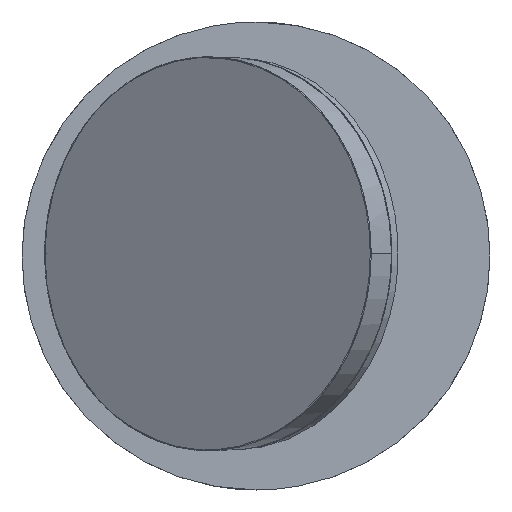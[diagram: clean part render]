
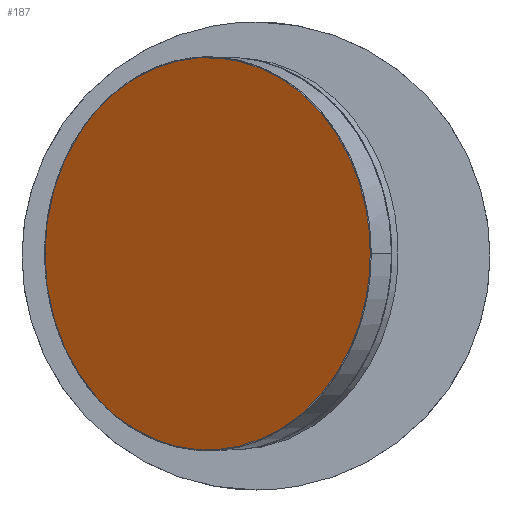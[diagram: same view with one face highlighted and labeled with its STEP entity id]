
A CAD part, top view. The second image highlights one B-rep face of the part: STEP entity #187.
In plain terms, the highlighted planar face has unit normal (-0.559, 0, 0.829).
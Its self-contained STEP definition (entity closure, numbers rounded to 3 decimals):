
#187=ADVANCED_FACE('',(#405),#3004,.T.);
#405=FACE_OUTER_BOUND('',#643,.T.);
#643=EDGE_LOOP('',(#1259,#1260));
#1259=ORIENTED_EDGE('',*,*,#1961,.F.);
#1260=ORIENTED_EDGE('',*,*,#2013,.T.);
#1961=EDGE_CURVE('',#2854,#2855,#2535,.T.);
#2013=EDGE_CURVE('',#2854,#2855,#2557,.T.);
#2535=(
BOUNDED_CURVE()
B_SPLINE_CURVE(2,(#8783,#8784,#8785,#8786,#8787),.UNSPECIFIED.,.F.,.F.)
B_SPLINE_CURVE_WITH_KNOTS((3,2,3),(0.,79.006,158.011),
 .UNSPECIFIED.)
CURVE()
GEOMETRIC_REPRESENTATION_ITEM()
RATIONAL_B_SPLINE_CURVE((1.,0.707,1.,0.707,1.))
REPRESENTATION_ITEM('')
);
#2557=(
BOUNDED_CURVE()
B_SPLINE_CURVE(2,(#8953,#8954,#8955,#8956,#8957),.UNSPECIFIED.,.F.,.F.)
B_SPLINE_CURVE_WITH_KNOTS((3,2,3),(-158.011,-79.006,
0.),.UNSPECIFIED.)
CURVE()
GEOMETRIC_REPRESENTATION_ITEM()
RATIONAL_B_SPLINE_CURVE((1.,0.707,1.,0.707,1.))
REPRESENTATION_ITEM('')
);
#2854=VERTEX_POINT('',#8526);
#2855=VERTEX_POINT('',#8527);
#3004=PLANE('',#3239);
#3239=AXIS2_PLACEMENT_3D('',#6756,#3292,$);
#3292=DIRECTION('',(-0.559,0.,0.829));
#6756=CARTESIAN_POINT('',(-28.444,116.368,300.313));
#8526=CARTESIAN_POINT('',(-20.105,176.724,305.939));
#8527=CARTESIAN_POINT('',(63.291,176.724,362.189));
#8783=CARTESIAN_POINT('',(-20.105,176.724,305.939));
#8784=CARTESIAN_POINT('',(-20.105,227.02,305.939));
#8785=CARTESIAN_POINT('',(21.593,227.02,334.064));
#8786=CARTESIAN_POINT('',(63.291,227.02,362.189));
#8787=CARTESIAN_POINT('',(63.291,176.724,362.189));
#8953=CARTESIAN_POINT('',(-20.105,176.724,305.939));
#8954=CARTESIAN_POINT('',(-20.105,126.427,305.939));
#8955=CARTESIAN_POINT('',(21.593,126.427,334.064));
#8956=CARTESIAN_POINT('',(63.291,126.427,362.189));
#8957=CARTESIAN_POINT('',(63.291,176.724,362.189));
